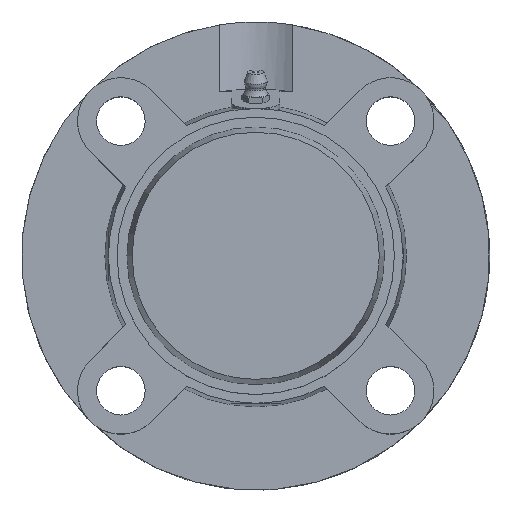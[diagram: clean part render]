
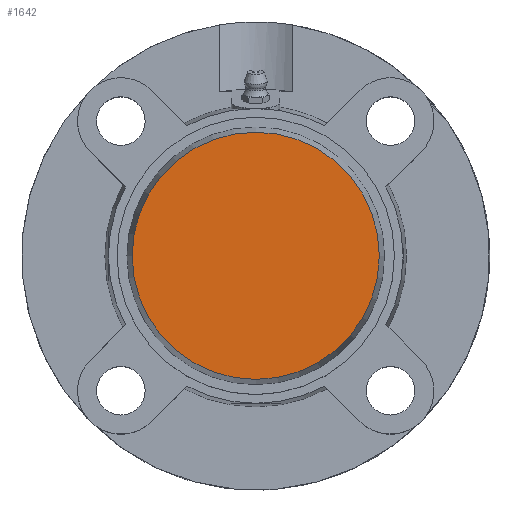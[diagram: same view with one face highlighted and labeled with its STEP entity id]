
A CAD part, top view. The second image highlights one B-rep face of the part: STEP entity #1642.
In plain terms, the highlighted planar face has unit normal (0, 0, 1).
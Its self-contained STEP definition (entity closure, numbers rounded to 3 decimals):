
#1626=CARTESIAN_POINT('',(0.0,17.823,25.));
#1627=DIRECTION('',(0.0,0.0,1.0));
#1628=DIRECTION('',(1.0,0.0,0.0));
#1629=AXIS2_PLACEMENT_3D('',#1626,#1627,#1628);
#1630=PLANE('',#1629);
#1631=CARTESIAN_POINT('',(0.0,35.647,25.));
#1632=VERTEX_POINT('',#1631);
#1633=CARTESIAN_POINT('',(0.0,0.,25.0));
#1634=DIRECTION('',(0.0,0.0,-1.0));
#1635=DIRECTION('',(0.0,1.0,0.0));
#1636=AXIS2_PLACEMENT_3D('',#1633,#1634,#1635);
#1637=CIRCLE('',#1636,35.647);
#1638=EDGE_CURVE('',#1632,#1632,#1637,.T.);
#1639=ORIENTED_EDGE('',*,*,#1638,.F.);
#1640=EDGE_LOOP('',(#1639));
#1641=FACE_OUTER_BOUND('',#1640,.T.);
#1642=ADVANCED_FACE('',(#1641),#1630,.T.);
